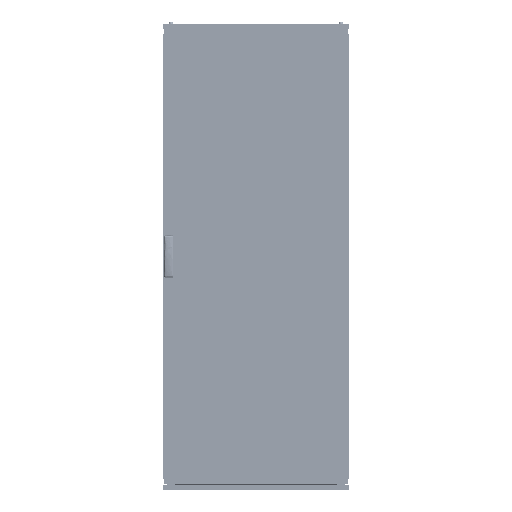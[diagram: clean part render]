
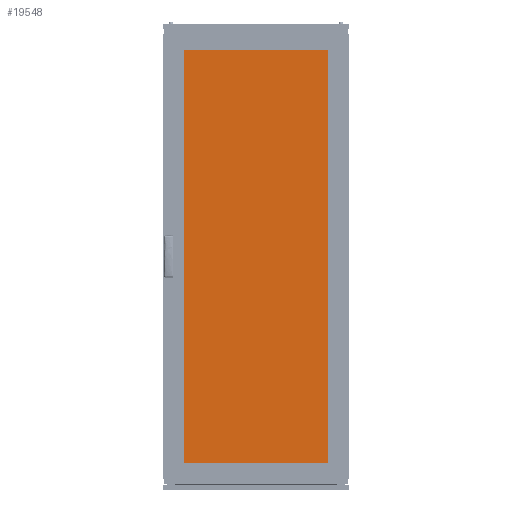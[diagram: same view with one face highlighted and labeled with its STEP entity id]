
A CAD part, top view. The second image highlights one B-rep face of the part: STEP entity #19548.
In plain terms, the highlighted planar face has unit normal (0, 0, 1).
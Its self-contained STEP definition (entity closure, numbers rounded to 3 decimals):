
#403 = ORIENTED_EDGE ( 'NONE', *, *, #157509, .T. ) ;
#913 = DIRECTION ( 'NONE',  ( 0., -1., 0. ) ) ;
#15381 = DIRECTION ( 'NONE',  ( -1., 0., 0. ) ) ;
#19548 = ADVANCED_FACE ( 'NONE', ( #224157 ), #27533, .F. ) ;
#19653 = CARTESIAN_POINT ( 'NONE',  ( -330., -910., 5. ) ) ;
#25515 = VERTEX_POINT ( 'NONE', #152817 ) ;
#27533 = PLANE ( 'NONE',  #121326 ) ;
#34114 = ORIENTED_EDGE ( 'NONE', *, *, #134929, .T. ) ;
#38010 = LINE ( 'NONE', #93009, #192098 ) ;
#53402 = EDGE_LOOP ( 'NONE', ( #34114, #175486, #141506, #403 ) ) ;
#53714 = VERTEX_POINT ( 'NONE', #224958 ) ;
#66192 = DIRECTION ( 'NONE',  ( 1., 0., 0. ) ) ;
#82603 = CARTESIAN_POINT ( 'NONE',  ( -330., -910., 5. ) ) ;
#93009 = CARTESIAN_POINT ( 'NONE',  ( 330., -910., 5. ) ) ;
#100060 = DIRECTION ( 'NONE',  ( -1., 0., 0. ) ) ;
#121326 = AXIS2_PLACEMENT_3D ( 'NONE', #175806, #210892, #15381 ) ;
#123913 = LINE ( 'NONE', #19653, #141262 ) ;
#134929 = EDGE_CURVE ( 'NONE', #169808, #151788, #38010, .T. ) ;
#136779 = CARTESIAN_POINT ( 'NONE',  ( 330., 910., 5. ) ) ;
#140103 = VECTOR ( 'NONE', #100060, 1000. ) ;
#141262 = VECTOR ( 'NONE', #913, 1000. ) ;
#141506 = ORIENTED_EDGE ( 'NONE', *, *, #202432, .T. ) ;
#150359 = DIRECTION ( 'NONE',  ( 0., 1., 0. ) ) ;
#151788 = VERTEX_POINT ( 'NONE', #136779 ) ;
#152817 = CARTESIAN_POINT ( 'NONE',  ( -330., -910., 5. ) ) ;
#157509 = EDGE_CURVE ( 'NONE', #25515, #169808, #172758, .T. ) ;
#169808 = VERTEX_POINT ( 'NONE', #223825 ) ;
#172758 = LINE ( 'NONE', #82603, #178282 ) ;
#175486 = ORIENTED_EDGE ( 'NONE', *, *, #198035, .T. ) ;
#175806 = CARTESIAN_POINT ( 'NONE',  ( 0., 0., 5. ) ) ;
#178282 = VECTOR ( 'NONE', #66192, 1000. ) ;
#190164 = CARTESIAN_POINT ( 'NONE',  ( -330., 910., 5. ) ) ;
#192098 = VECTOR ( 'NONE', #150359, 1000. ) ;
#198035 = EDGE_CURVE ( 'NONE', #151788, #53714, #207688, .T. ) ;
#202432 = EDGE_CURVE ( 'NONE', #53714, #25515, #123913, .T. ) ;
#207688 = LINE ( 'NONE', #190164, #140103 ) ;
#210892 = DIRECTION ( 'NONE',  ( 0., 0., -1. ) ) ;
#223825 = CARTESIAN_POINT ( 'NONE',  ( 330., -910., 5. ) ) ;
#224157 = FACE_OUTER_BOUND ( 'NONE', #53402, .T. ) ;
#224958 = CARTESIAN_POINT ( 'NONE',  ( -330., 910., 5. ) ) ;
